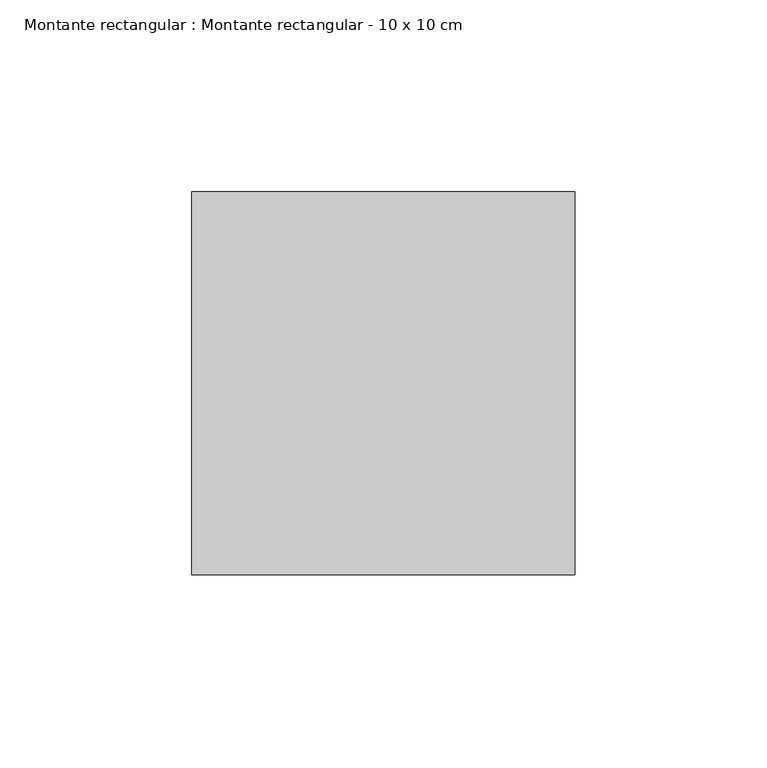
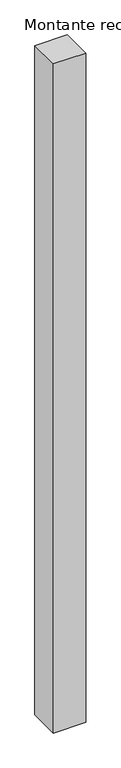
"""IFC4 building model written with IfcOpenShell, lengths in millimetres: member geometry, Montante rectangular : Montante rectangular - 10 x 10 cm."""

from ifc_helpers import new_model, si_unit, frame, origin, place, context, project, spatial, polyline, outline, extrude, source, transform, mapped, element, save


def montante_rectangular_montante_rectangular_10_x_10_cm_1443ea9d(model_context):
    return source(origin(), model_context, "Body", "SweptSolid", [
        extrude(outline(polyline([(0.0, -50.0), (-100.0, -50.0), (-100.0, 50.0), (0.0, 50.0), (0.0, -50.0)])), frame((0.0, 0.0, -2200.0), z_axis=(0.0, 0.0, 1.0), x_axis=(1.0, 0.0, 0.0)), (0.0, 0.0, 1.0), 2200.0),
    ])


if __name__ == "__main__":
    model = new_model("IFC4")
    model_context = context("Model", 3, world=origin())
    ifc_project = project(units=[si_unit("LENGTHUNIT", "METRE", prefix="MILLI")], contexts=[model_context])
    site = spatial("IfcSite", under=ifc_project)
    building = spatial("IfcBuilding", under=site)
    placement = place(None, origin())
    montante_rectangular_montante_rectangular_10_x_10_cm_shape = montante_rectangular_montante_rectangular_10_x_10_cm_1443ea9d(model_context)
    element("IfcMember", 1, ObjectType="Montante rectangular : Montante rectangular - 10 x 10 cm", at=placement, inside=building, context=model_context, shape_type="MappedRepresentation", body=[
        mapped(montante_rectangular_montante_rectangular_10_x_10_cm_shape, transform((0.0, 0.0, 0.0), x_axis=(1.0, 0.0, 0.0), y_axis=(0.0, 1.0, 0.0), z_axis=(0.0, 0.0, 1.0))),
    ])
    save(model, "model.ifc")
